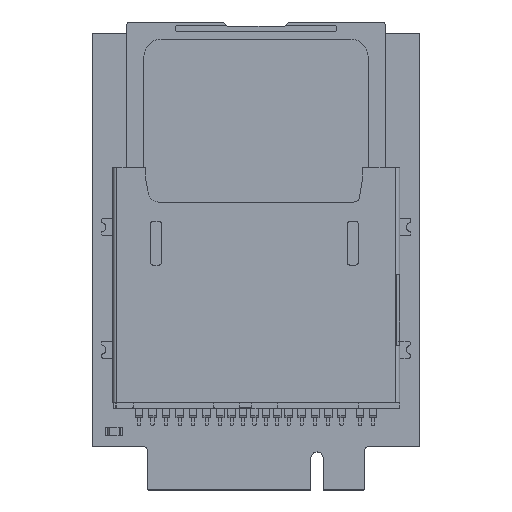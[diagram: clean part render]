
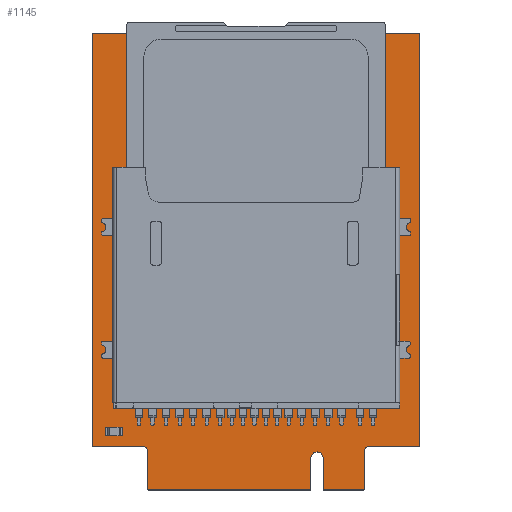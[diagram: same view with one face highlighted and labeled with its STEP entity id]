
A CAD part, top view. The second image highlights one B-rep face of the part: STEP entity #1145.
In plain terms, the highlighted planar face has unit normal (0, 0, 1).
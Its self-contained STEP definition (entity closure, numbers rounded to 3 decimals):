
#212 = VERTEX_POINT('',#213);
#213 = CARTESIAN_POINT('',(-11.076,-18.318,0.8));
#219 = EDGE_CURVE('',#212,#220,#222,.T.);
#220 = VERTEX_POINT('',#221);
#221 = CARTESIAN_POINT('',(-10.602,-18.793,0.8));
#222 = CIRCLE('',#223,0.475);
#223 = AXIS2_PLACEMENT_3D('',#224,#225,#226);
#224 = CARTESIAN_POINT('',(-11.077,-18.793,0.8));
#225 = DIRECTION('',(0.,0.,-1.));
#226 = DIRECTION('',(0.001,1.,0.));
#252 = EDGE_CURVE('',#220,#253,#255,.T.);
#253 = VERTEX_POINT('',#254);
#254 = CARTESIAN_POINT('',(-10.602,-22.293,0.8));
#255 = LINE('',#256,#257);
#256 = CARTESIAN_POINT('',(-10.602,-18.793,0.8));
#257 = VECTOR('',#258,1.);
#258 = DIRECTION('',(0.,-1.,0.));
#283 = EDGE_CURVE('',#253,#284,#286,.T.);
#284 = VERTEX_POINT('',#285);
#285 = CARTESIAN_POINT('',(-10.576,-22.318,0.8));
#286 = CIRCLE('',#287,0.026);
#287 = AXIS2_PLACEMENT_3D('',#288,#289,#290);
#288 = CARTESIAN_POINT('',(-10.576,-22.292,0.8));
#289 = DIRECTION('',(0.,0.,1.));
#290 = DIRECTION('',(-1.,-0.023,0.));
#316 = EDGE_CURVE('',#284,#317,#319,.T.);
#317 = VERTEX_POINT('',#318);
#318 = CARTESIAN_POINT('',(4.374,-22.318,0.8));
#319 = LINE('',#320,#321);
#320 = CARTESIAN_POINT('',(-10.576,-22.318,0.8));
#321 = VECTOR('',#322,1.);
#322 = DIRECTION('',(1.,0.,0.));
#347 = EDGE_CURVE('',#317,#348,#350,.T.);
#348 = VERTEX_POINT('',#349);
#349 = CARTESIAN_POINT('',(4.4,-22.293,0.8));
#350 = CIRCLE('',#351,0.026);
#351 = AXIS2_PLACEMENT_3D('',#352,#353,#354);
#352 = CARTESIAN_POINT('',(4.374,-22.292,0.8));
#353 = DIRECTION('',(0.,0.,1.));
#354 = DIRECTION('',(-0.016,-1.,0.));
#380 = EDGE_CURVE('',#348,#381,#383,.T.);
#381 = VERTEX_POINT('',#382);
#382 = CARTESIAN_POINT('',(4.4,-19.393,0.8));
#383 = LINE('',#384,#385);
#384 = CARTESIAN_POINT('',(4.4,-22.293,0.8));
#385 = VECTOR('',#386,1.);
#386 = DIRECTION('',(0.,1.,0.));
#411 = EDGE_CURVE('',#381,#412,#414,.T.);
#412 = VERTEX_POINT('',#413);
#413 = CARTESIAN_POINT('',(5.548,-19.393,0.8));
#414 = CIRCLE('',#415,0.574);
#415 = AXIS2_PLACEMENT_3D('',#416,#417,#418);
#416 = CARTESIAN_POINT('',(4.974,-19.392,0.8));
#417 = DIRECTION('',(0.,0.,-1.));
#418 = DIRECTION('',(-1.,-0.002,-0.));
#444 = EDGE_CURVE('',#412,#445,#447,.T.);
#445 = VERTEX_POINT('',#446);
#446 = CARTESIAN_POINT('',(5.548,-22.293,0.8));
#447 = LINE('',#448,#449);
#448 = CARTESIAN_POINT('',(5.548,-19.393,0.8));
#449 = VECTOR('',#450,1.);
#450 = DIRECTION('',(0.,-1.,0.));
#475 = EDGE_CURVE('',#445,#476,#478,.T.);
#476 = VERTEX_POINT('',#477);
#477 = CARTESIAN_POINT('',(5.574,-22.318,0.8));
#478 = CIRCLE('',#479,0.026);
#479 = AXIS2_PLACEMENT_3D('',#480,#481,#482);
#480 = CARTESIAN_POINT('',(5.574,-22.292,0.8));
#481 = DIRECTION('',(0.,0.,1.));
#482 = DIRECTION('',(-1.,-0.023,0.));
#508 = EDGE_CURVE('',#476,#509,#511,.T.);
#509 = VERTEX_POINT('',#510);
#510 = CARTESIAN_POINT('',(9.274,-22.318,0.8));
#511 = LINE('',#512,#513);
#512 = CARTESIAN_POINT('',(5.574,-22.318,0.8));
#513 = VECTOR('',#514,1.);
#514 = DIRECTION('',(1.,0.,0.));
#539 = EDGE_CURVE('',#509,#540,#542,.T.);
#540 = VERTEX_POINT('',#541);
#541 = CARTESIAN_POINT('',(9.3,-22.293,0.8));
#542 = CIRCLE('',#543,0.026);
#543 = AXIS2_PLACEMENT_3D('',#544,#545,#546);
#544 = CARTESIAN_POINT('',(9.274,-22.292,0.8));
#545 = DIRECTION('',(0.,0.,1.));
#546 = DIRECTION('',(-0.016,-1.,0.));
#572 = EDGE_CURVE('',#540,#573,#575,.T.);
#573 = VERTEX_POINT('',#574);
#574 = CARTESIAN_POINT('',(9.3,-18.793,0.8));
#575 = LINE('',#576,#577);
#576 = CARTESIAN_POINT('',(9.3,-22.293,0.8));
#577 = VECTOR('',#578,1.);
#578 = DIRECTION('',(0.,1.,0.));
#603 = EDGE_CURVE('',#573,#604,#606,.T.);
#604 = VERTEX_POINT('',#605);
#605 = CARTESIAN_POINT('',(9.774,-18.318,0.8));
#606 = CIRCLE('',#607,0.475);
#607 = AXIS2_PLACEMENT_3D('',#608,#609,#610);
#608 = CARTESIAN_POINT('',(9.775,-18.793,0.8));
#609 = DIRECTION('',(0.,0.,-1.));
#610 = DIRECTION('',(-1.,-0.001,-0.));
#636 = EDGE_CURVE('',#604,#637,#639,.T.);
#637 = VERTEX_POINT('',#638);
#638 = CARTESIAN_POINT('',(14.349,-18.318,0.8));
#639 = LINE('',#640,#641);
#640 = CARTESIAN_POINT('',(9.774,-18.318,0.8));
#641 = VECTOR('',#642,1.);
#642 = DIRECTION('',(1.,0.,0.));
#667 = EDGE_CURVE('',#637,#668,#670,.T.);
#668 = VERTEX_POINT('',#669);
#669 = CARTESIAN_POINT('',(14.375,-18.293,0.8));
#670 = CIRCLE('',#671,0.026);
#671 = AXIS2_PLACEMENT_3D('',#672,#673,#674);
#672 = CARTESIAN_POINT('',(14.349,-18.292,0.8));
#673 = DIRECTION('',(0.,0.,1.));
#674 = DIRECTION('',(-0.016,-1.,0.));
#700 = EDGE_CURVE('',#668,#701,#703,.T.);
#701 = VERTEX_POINT('',#702);
#702 = CARTESIAN_POINT('',(14.375,19.707,0.8));
#703 = LINE('',#704,#705);
#704 = CARTESIAN_POINT('',(14.375,-18.293,0.8));
#705 = VECTOR('',#706,1.);
#706 = DIRECTION('',(0.,1.,0.));
#731 = EDGE_CURVE('',#701,#732,#734,.T.);
#732 = VERTEX_POINT('',#733);
#733 = CARTESIAN_POINT('',(14.349,19.733,0.8));
#734 = CIRCLE('',#735,0.026);
#735 = AXIS2_PLACEMENT_3D('',#736,#737,#738);
#736 = CARTESIAN_POINT('',(14.349,19.707,0.8));
#737 = DIRECTION('',(0.,0.,1.));
#738 = DIRECTION('',(1.,-0.016,0.));
#764 = EDGE_CURVE('',#732,#765,#767,.T.);
#765 = VERTEX_POINT('',#766);
#766 = CARTESIAN_POINT('',(1.099,19.733,0.8));
#767 = LINE('',#768,#769);
#768 = CARTESIAN_POINT('',(14.349,19.733,0.8));
#769 = VECTOR('',#770,1.);
#770 = DIRECTION('',(-1.,0.,0.));
#795 = EDGE_CURVE('',#765,#796,#798,.T.);
#796 = VERTEX_POINT('',#797);
#797 = CARTESIAN_POINT('',(1.073,19.707,0.8));
#798 = CIRCLE('',#799,0.026);
#799 = AXIS2_PLACEMENT_3D('',#800,#801,#802);
#800 = CARTESIAN_POINT('',(1.099,19.707,0.8));
#801 = DIRECTION('',(0.,0.,1.));
#802 = DIRECTION('',(0.016,1.,-0.));
#828 = EDGE_CURVE('',#796,#829,#831,.T.);
#829 = VERTEX_POINT('',#830);
#830 = CARTESIAN_POINT('',(-2.375,19.707,0.8));
#831 = CIRCLE('',#832,1.724);
#832 = AXIS2_PLACEMENT_3D('',#833,#834,#835);
#833 = CARTESIAN_POINT('',(-0.651,19.707,0.8));
#834 = DIRECTION('',(0.,0.,-1.));
#835 = DIRECTION('',(1.,0.,0.));
#861 = EDGE_CURVE('',#829,#862,#864,.T.);
#862 = VERTEX_POINT('',#863);
#863 = CARTESIAN_POINT('',(-2.401,19.733,0.8));
#864 = CIRCLE('',#865,0.026);
#865 = AXIS2_PLACEMENT_3D('',#866,#867,#868);
#866 = CARTESIAN_POINT('',(-2.401,19.707,0.8));
#867 = DIRECTION('',(0.,0.,1.));
#868 = DIRECTION('',(1.,-0.016,0.));
#894 = EDGE_CURVE('',#862,#895,#897,.T.);
#895 = VERTEX_POINT('',#896);
#896 = CARTESIAN_POINT('',(-15.651,19.733,0.8));
#897 = LINE('',#898,#899);
#898 = CARTESIAN_POINT('',(-2.401,19.733,0.8));
#899 = VECTOR('',#900,1.);
#900 = DIRECTION('',(-1.,0.,0.));
#925 = EDGE_CURVE('',#895,#926,#928,.T.);
#926 = VERTEX_POINT('',#927);
#927 = CARTESIAN_POINT('',(-15.677,19.707,0.8));
#928 = CIRCLE('',#929,0.026);
#929 = AXIS2_PLACEMENT_3D('',#930,#931,#932);
#930 = CARTESIAN_POINT('',(-15.651,19.707,0.8));
#931 = DIRECTION('',(0.,0.,1.));
#932 = DIRECTION('',(0.016,1.,-0.));
#958 = EDGE_CURVE('',#926,#959,#961,.T.);
#959 = VERTEX_POINT('',#960);
#960 = CARTESIAN_POINT('',(-15.677,-18.293,0.8));
#961 = LINE('',#962,#963);
#962 = CARTESIAN_POINT('',(-15.677,19.707,0.8));
#963 = VECTOR('',#964,1.);
#964 = DIRECTION('',(0.,-1.,0.));
#989 = EDGE_CURVE('',#959,#990,#992,.T.);
#990 = VERTEX_POINT('',#991);
#991 = CARTESIAN_POINT('',(-15.651,-18.318,0.8));
#992 = CIRCLE('',#993,0.026);
#993 = AXIS2_PLACEMENT_3D('',#994,#995,#996);
#994 = CARTESIAN_POINT('',(-15.651,-18.292,0.8));
#995 = DIRECTION('',(0.,0.,1.));
#996 = DIRECTION('',(-1.,-0.023,0.));
#1022 = EDGE_CURVE('',#990,#212,#1023,.T.);
#1023 = LINE('',#1024,#1025);
#1024 = CARTESIAN_POINT('',(-15.651,-18.318,0.8)
  );
#1025 = VECTOR('',#1026,1.);
#1026 = DIRECTION('',(1.,0.,0.));
#1046 = VERTEX_POINT('',#1047);
#1047 = CARTESIAN_POINT('',(-11.245,-13.2,0.8));
#1053 = EDGE_CURVE('',#1046,#1046,#1054,.T.);
#1054 = CIRCLE('',#1055,0.8);
#1055 = AXIS2_PLACEMENT_3D('',#1056,#1057,#1058);
#1056 = CARTESIAN_POINT('',(-12.045,-13.2,0.8));
#1057 = DIRECTION('',(0.,0.,1.));
#1058 = DIRECTION('',(1.,0.,-0.));
#1079 = VERTEX_POINT('',#1080);
#1080 = CARTESIAN_POINT('',(11.555,-13.2,0.8));
#1086 = EDGE_CURVE('',#1079,#1079,#1087,.T.);
#1087 = CIRCLE('',#1088,0.8);
#1088 = AXIS2_PLACEMENT_3D('',#1089,#1090,#1091);
#1089 = CARTESIAN_POINT('',(10.755,-13.2,0.8));
#1090 = DIRECTION('',(0.,0.,1.));
#1091 = DIRECTION('',(1.,0.,-0.));
#1145 = ADVANCED_FACE('',(#1146,#1174,#1177),#1180,.T.);
#1146 = FACE_BOUND('',#1147,.T.);
#1147 = EDGE_LOOP('',(#1148,#1149,#1150,#1151,#1152,#1153,#1154,#1155,
    #1156,#1157,#1158,#1159,#1160,#1161,#1162,#1163,#1164,#1165,#1166,
    #1167,#1168,#1169,#1170,#1171,#1172,#1173));
#1148 = ORIENTED_EDGE('',*,*,#219,.T.);
#1149 = ORIENTED_EDGE('',*,*,#252,.T.);
#1150 = ORIENTED_EDGE('',*,*,#283,.T.);
#1151 = ORIENTED_EDGE('',*,*,#316,.T.);
#1152 = ORIENTED_EDGE('',*,*,#347,.T.);
#1153 = ORIENTED_EDGE('',*,*,#380,.T.);
#1154 = ORIENTED_EDGE('',*,*,#411,.T.);
#1155 = ORIENTED_EDGE('',*,*,#444,.T.);
#1156 = ORIENTED_EDGE('',*,*,#475,.T.);
#1157 = ORIENTED_EDGE('',*,*,#508,.T.);
#1158 = ORIENTED_EDGE('',*,*,#539,.T.);
#1159 = ORIENTED_EDGE('',*,*,#572,.T.);
#1160 = ORIENTED_EDGE('',*,*,#603,.T.);
#1161 = ORIENTED_EDGE('',*,*,#636,.T.);
#1162 = ORIENTED_EDGE('',*,*,#667,.T.);
#1163 = ORIENTED_EDGE('',*,*,#700,.T.);
#1164 = ORIENTED_EDGE('',*,*,#731,.T.);
#1165 = ORIENTED_EDGE('',*,*,#764,.T.);
#1166 = ORIENTED_EDGE('',*,*,#795,.T.);
#1167 = ORIENTED_EDGE('',*,*,#828,.T.);
#1168 = ORIENTED_EDGE('',*,*,#861,.T.);
#1169 = ORIENTED_EDGE('',*,*,#894,.T.);
#1170 = ORIENTED_EDGE('',*,*,#925,.T.);
#1171 = ORIENTED_EDGE('',*,*,#958,.T.);
#1172 = ORIENTED_EDGE('',*,*,#989,.T.);
#1173 = ORIENTED_EDGE('',*,*,#1022,.T.);
#1174 = FACE_BOUND('',#1175,.T.);
#1175 = EDGE_LOOP('',(#1176));
#1176 = ORIENTED_EDGE('',*,*,#1053,.F.);
#1177 = FACE_BOUND('',#1178,.T.);
#1178 = EDGE_LOOP('',(#1179));
#1179 = ORIENTED_EDGE('',*,*,#1086,.F.);
#1180 = PLANE('',#1181);
#1181 = AXIS2_PLACEMENT_3D('',#1182,#1183,#1184);
#1182 = CARTESIAN_POINT('',(-0.414,-1.561,0.8));
#1183 = DIRECTION('',(0.,0.,1.));
#1184 = DIRECTION('',(1.,0.,-0.));
